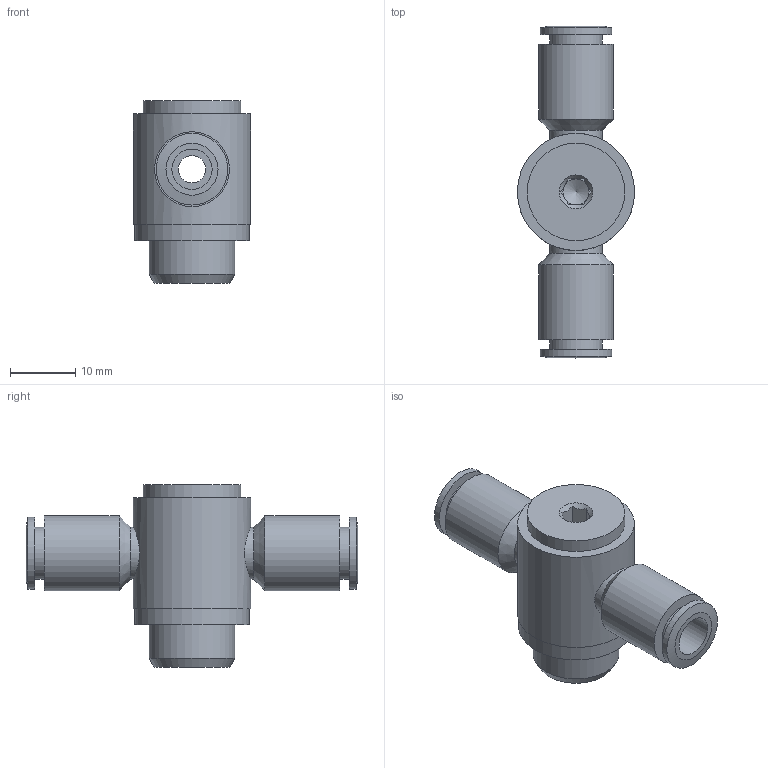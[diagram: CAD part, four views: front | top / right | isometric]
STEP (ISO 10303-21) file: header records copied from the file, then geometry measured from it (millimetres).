
FILE_DESCRIPTION((''),'2;1');
FILE_NAME('C:\Documents and Settings\rivolro1\Documenti\copia di Raccordi\PLASTICA\T16XXXX\T160614.stp','2007-10-31T15:06:24',('Rivolro1'),(''),'Autodesk Inventor 2008','Autodesk Inventor 2008','');
FILE_SCHEMA(('AUTOMOTIVE_DESIGN { 1 0 10303 214 1 1 1 1 }'));
Length unit declared in the file: millimetre
Products named in the file (1): T160614
Bounding box: 18 x 51 x 28 mm (x, y, z)
Volume: 7927.6 mm3; surface area: 4321.3 mm2
Topology: 1 solids, 1 shells, 48 faces, 101 edges, 65 vertices
Faces by surface type: plane 23, cylinder 12, bspline 8, cone 5
Full cylindrical faces by diameter (mm): 8 x4, 11 x2, 11.5 x2, 13.2 x1, 15 x1, 17.6 x1, 18 x1
Entity records: 1387 total; most frequent: CARTESIAN_POINT 449, DIRECTION 178, ORIENTED_EDGE 142, EDGE_LOOP 84, AXIS2_PLACEMENT_3D 80, EDGE_CURVE 71, VERTEX_POINT 59, FACE_OUTER_BOUND 48
